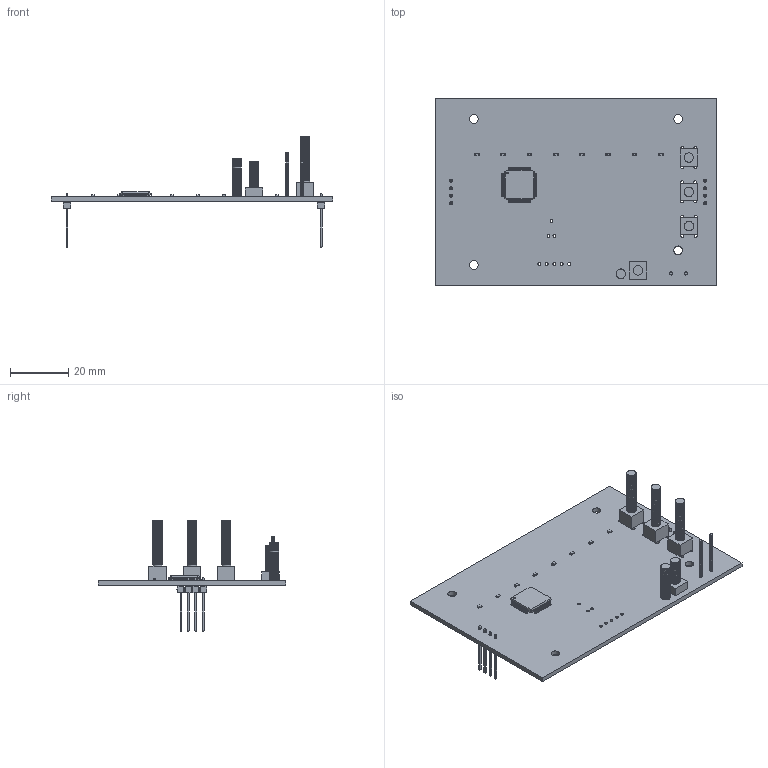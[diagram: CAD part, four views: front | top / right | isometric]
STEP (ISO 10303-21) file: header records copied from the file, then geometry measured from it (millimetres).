
FILE_DESCRIPTION(('Open CASCADE Model'),'2;1');
FILE_NAME('Open CASCADE Shape Model','2026-08-01T20:41:54',('Author'),( 'Open CASCADE'),'Open CASCADE STEP processor 7.5','Open CASCADE 7.5' ,'Unknown');
FILE_SCHEMA(('AUTOMOTIVE_DESIGN { 1 0 10303 214 1 1 1 1 }'));
Length unit declared in the file: millimetre
Products named in the file (48): PCB; Board; Open CASCADE STEP translator 7.5 3.1.1; SW1; 11130369120; Extruded; 12879318144; J10; strip_tsw-104-15-t-s; D5; QBLP601_MONO; Substrate; Bottom Polarity; Top Polarity 2a; Bottom Pad 2; Bottom Pad 1; Side Pad 2; Top Polarity 2b; Side Pad 1; Top Pad 1; Resin; D7; J9; SW3; J1; 13075747648; D10; D11; 11111678320; 13076866352; D8; D4; D6; IC1; R7FA2L1AB2DFM#AA0; D9; D1; SW5; 13226651120; 12554178736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
Assembly tree (60 placements, depth 4):
  PCB
    Board
      Open CASCADE STEP translator 7.5 3.1.1
    SW1
      11130369120
        Extruded
      12879318144
        Extruded
    J10
      strip_tsw-104-15-t-s
    D5
      QBLP601_MONO
        Substrate
        Bottom Polarity
        Top Polarity 2a
        Bottom Pad 2
        Bottom Pad 1
        Side Pad 2
        Top Polarity 2b
        Side Pad 1
        Top Polarity 2a
        Top Pad 1
        Resin
    D7
      QBLP601_MONO
        Substrate
        Bottom Polarity
        Top Polarity 2a
        Bottom Pad 2
        Bottom Pad 1
        Side Pad 2
        Top Polarity 2b
        Side Pad 1
        Top Polarity 2a
        Top Pad 1
        Resin
    J9
      strip_tsw-104-15-t-s
    SW3
      12879318144
        Extruded
      11130369120
        Extruded
    J1
      13075747648  x2
        Extruded
    D10
      QBLP601_MONO
        Substrate
        Bottom Polarity
        Top Polarity 2a
        Bottom Pad 2
        Bottom Pad 1
        Side Pad 2
        Top Polarity 2b
        Side Pad 1
        Top Polarity 2a
        Top Pad 1
        Resin
    D11
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Bounding box: 96.5 x 64.4 x 37.85 mm (x, y, z)
Volume: 11402.4 mm3; surface area: 15638.4 mm2
Topology: 169 solids, 169 shells, 3141 faces, 8072 edges, 5344 vertices
Faces by surface type: plane 2373, cylinder 536, bspline 232
Full cylindrical faces by diameter (mm): 0.9 x2, 0.99 x3, 1 x13, 1.06 x12, 1.1 x2, 3 x4
Entity records: 49539 total; most frequent: CARTESIAN_POINT 8539, ORIENTED_EDGE 7970, DIRECTION 7715, EDGE_CURVE 3985, LINE 3275, VECTOR 3275, VERTEX_POINT 2638, AXIS2_PLACEMENT_3D 2220
